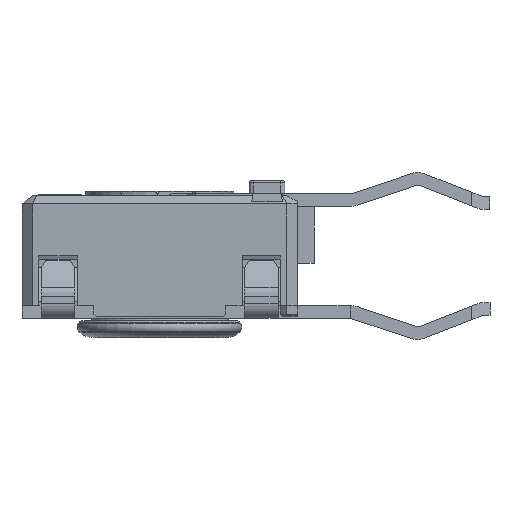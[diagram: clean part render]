
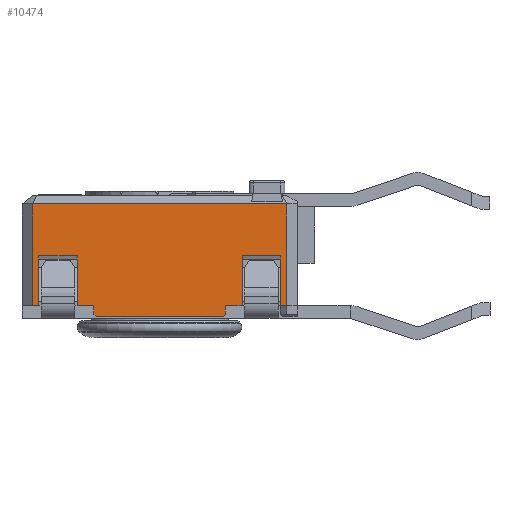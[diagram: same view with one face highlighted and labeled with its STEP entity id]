
A CAD part, left-side view. The second image highlights one B-rep face of the part: STEP entity #10474.
In plain terms, the highlighted planar face has unit normal (-1, 0, 0).
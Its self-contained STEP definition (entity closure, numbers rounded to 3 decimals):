
#476=PLANE('',#11250);
#1004=FACE_OUTER_BOUND('',#1568,.T.);
#1568=EDGE_LOOP('',(#9272,#9273,#9274,#9275,#9276,#9277,#9278,#9279,#9280,
#9281,#9282,#9283,#9284,#9285,#9286,#9287,#9288,#9289));
#2332=LINE('',#16055,#3528);
#2338=LINE('',#16068,#3534);
#2344=LINE('',#16079,#3540);
#2350=LINE('',#16090,#3546);
#2355=LINE('',#16100,#3551);
#2358=LINE('',#16106,#3554);
#2363=LINE('',#16115,#3559);
#2379=LINE('',#16145,#3575);
#2405=LINE('',#16205,#3601);
#2409=LINE('',#16210,#3605);
#2434=LINE('',#16250,#3630);
#2436=LINE('',#16255,#3632);
#2445=LINE('',#16273,#3641);
#2446=LINE('',#16275,#3642);
#2652=LINE('',#16781,#3848);
#2665=LINE('',#16805,#3861);
#2666=LINE('',#16807,#3862);
#2667=LINE('',#16809,#3863);
#3528=VECTOR('',#12931,10.);
#3534=VECTOR('',#12939,10.);
#3540=VECTOR('',#12945,10.);
#3546=VECTOR('',#12953,10.);
#3551=VECTOR('',#12960,10.);
#3554=VECTOR('',#12965,10.);
#3559=VECTOR('',#12972,10.);
#3575=VECTOR('',#12996,10.);
#3601=VECTOR('',#13050,10.);
#3605=VECTOR('',#13056,10.);
#3630=VECTOR('',#13091,10.);
#3632=VECTOR('',#13095,10.);
#3641=VECTOR('',#13116,10.);
#3642=VECTOR('',#13119,10.);
#3848=VECTOR('',#13593,10.);
#3861=VECTOR('',#13614,10.);
#3862=VECTOR('',#13617,10.);
#3863=VECTOR('',#13620,10.);
#4907=VERTEX_POINT('',#16052);
#4908=VERTEX_POINT('',#16054);
#4912=VERTEX_POINT('',#16064);
#4914=VERTEX_POINT('',#16067);
#4919=VERTEX_POINT('',#16077);
#4922=VERTEX_POINT('',#16087);
#4926=VERTEX_POINT('',#16097);
#4929=VERTEX_POINT('',#16104);
#4932=VERTEX_POINT('',#16113);
#4940=VERTEX_POINT('',#16132);
#4942=VERTEX_POINT('',#16144);
#4959=VERTEX_POINT('',#16197);
#4960=VERTEX_POINT('',#16201);
#4962=VERTEX_POINT('',#16204);
#4973=VERTEX_POINT('',#16252);
#5121=VERTEX_POINT('',#16778);
#5122=VERTEX_POINT('',#16780);
#5129=VERTEX_POINT('',#16803);
#6118=EDGE_CURVE('',#4908,#4907,#2332,.T.);
#6124=EDGE_CURVE('',#4914,#4912,#2338,.T.);
#6130=EDGE_CURVE('',#4907,#4919,#2344,.T.);
#6136=EDGE_CURVE('',#4912,#4922,#2350,.T.);
#6141=EDGE_CURVE('',#4922,#4926,#2355,.T.);
#6144=EDGE_CURVE('',#4926,#4929,#2358,.T.);
#6149=EDGE_CURVE('',#4929,#4932,#2363,.T.);
#6165=EDGE_CURVE('',#4942,#4908,#2379,.T.);
#6197=EDGE_CURVE('',#4962,#4960,#2405,.T.);
#6201=EDGE_CURVE('',#4960,#4942,#2409,.T.);
#6226=EDGE_CURVE('',#4962,#4959,#2434,.T.);
#6228=EDGE_CURVE('',#4919,#4973,#2436,.T.);
#6237=EDGE_CURVE('',#4932,#4940,#2445,.T.);
#6238=EDGE_CURVE('',#4959,#4940,#2446,.T.);
#6486=EDGE_CURVE('',#5121,#5122,#2652,.T.);
#6499=EDGE_CURVE('',#5129,#4973,#2665,.T.);
#6500=EDGE_CURVE('',#5129,#5122,#2666,.T.);
#6501=EDGE_CURVE('',#5121,#4914,#2667,.T.);
#9272=ORIENTED_EDGE('',*,*,#6499,.F.);
#9273=ORIENTED_EDGE('',*,*,#6500,.T.);
#9274=ORIENTED_EDGE('',*,*,#6486,.F.);
#9275=ORIENTED_EDGE('',*,*,#6501,.T.);
#9276=ORIENTED_EDGE('',*,*,#6124,.T.);
#9277=ORIENTED_EDGE('',*,*,#6136,.T.);
#9278=ORIENTED_EDGE('',*,*,#6141,.T.);
#9279=ORIENTED_EDGE('',*,*,#6144,.T.);
#9280=ORIENTED_EDGE('',*,*,#6149,.T.);
#9281=ORIENTED_EDGE('',*,*,#6237,.T.);
#9282=ORIENTED_EDGE('',*,*,#6238,.F.);
#9283=ORIENTED_EDGE('',*,*,#6226,.F.);
#9284=ORIENTED_EDGE('',*,*,#6197,.T.);
#9285=ORIENTED_EDGE('',*,*,#6201,.T.);
#9286=ORIENTED_EDGE('',*,*,#6165,.T.);
#9287=ORIENTED_EDGE('',*,*,#6118,.T.);
#9288=ORIENTED_EDGE('',*,*,#6130,.T.);
#9289=ORIENTED_EDGE('',*,*,#6228,.T.);
#10474=ADVANCED_FACE('',(#1004),#476,.T.);
#11250=AXIS2_PLACEMENT_3D('',#16990,#13822,#13823);
#12931=DIRECTION('',(0.,0.,-1.));
#12939=DIRECTION('',(0.,-1.,0.));
#12945=DIRECTION('',(0.,-1.,0.));
#12953=DIRECTION('',(0.,0.,1.));
#12960=DIRECTION('',(0.,-1.,0.));
#12965=DIRECTION('',(0.,0.,-1.));
#12972=DIRECTION('',(0.,-1.,0.));
#12996=DIRECTION('',(0.,-1.,0.));
#13050=DIRECTION('',(0.,-1.,0.));
#13056=DIRECTION('',(0.,0.,1.));
#13091=DIRECTION('',(0.,0.,1.));
#13095=DIRECTION('',(0.,0.,-1.));
#13116=DIRECTION('',(0.,0.,1.));
#13119=DIRECTION('',(0.,-1.,0.));
#13593=DIRECTION('',(0.,0.707,-0.707));
#13614=DIRECTION('',(0.,0.707,0.707));
#13617=DIRECTION('',(0.,-1.,0.));
#13620=DIRECTION('',(0.,0.,1.));
#13822=DIRECTION('center_axis',(-1.,0.,0.));
#13823=DIRECTION('ref_axis',(0.,0.,1.));
#16052=CARTESIAN_POINT('',(-14.26,-9.782,0.25));
#16054=CARTESIAN_POINT('',(-14.26,-9.782,1.425));
#16055=CARTESIAN_POINT('',(-14.26,-9.782,0.387));
#16064=CARTESIAN_POINT('',(-14.26,-13.682,0.25));
#16067=CARTESIAN_POINT('',(-14.26,-13.282,0.25));
#16068=CARTESIAN_POINT('',(-14.26,-13.244,0.25));
#16077=CARTESIAN_POINT('',(-14.26,-10.182,0.25));
#16079=CARTESIAN_POINT('',(-14.26,-13.244,0.25));
#16087=CARTESIAN_POINT('',(-14.26,-13.682,1.425));
#16090=CARTESIAN_POINT('',(-14.26,-13.682,0.387));
#16097=CARTESIAN_POINT('',(-14.26,-14.582,1.425));
#16100=CARTESIAN_POINT('',(-14.26,-14.657,1.425));
#16104=CARTESIAN_POINT('',(-14.26,-14.582,0.25));
#16106=CARTESIAN_POINT('',(-14.26,-14.582,0.387));
#16113=CARTESIAN_POINT('',(-14.26,-14.732,0.25));
#16115=CARTESIAN_POINT('',(-14.26,-13.244,0.25));
#16132=CARTESIAN_POINT('',(-14.26,-14.732,2.655));
#16144=CARTESIAN_POINT('',(-14.26,-8.882,1.425));
#16145=CARTESIAN_POINT('',(-14.26,-11.807,1.425));
#16197=CARTESIAN_POINT('',(-14.26,-8.732,2.655));
#16201=CARTESIAN_POINT('',(-14.26,-8.882,0.25));
#16204=CARTESIAN_POINT('',(-14.26,-8.732,0.25));
#16205=CARTESIAN_POINT('',(-14.26,-13.244,0.25));
#16210=CARTESIAN_POINT('',(-14.26,-8.882,0.387));
#16250=CARTESIAN_POINT('',(-14.26,-8.732,0.));
#16252=CARTESIAN_POINT('',(-14.26,-10.182,0.05));
#16255=CARTESIAN_POINT('',(-14.26,-10.182,0.));
#16273=CARTESIAN_POINT('',(-14.26,-14.732,0.));
#16275=CARTESIAN_POINT('',(-14.26,-13.232,2.655));
#16778=CARTESIAN_POINT('',(-14.26,-13.282,0.05));
#16780=CARTESIAN_POINT('',(-14.26,-13.232,0.));
#16781=CARTESIAN_POINT('',(-14.26,-13.619,0.388));
#16803=CARTESIAN_POINT('',(-14.26,-10.232,0.));
#16805=CARTESIAN_POINT('',(-14.26,-11.344,-1.113));
#16807=CARTESIAN_POINT('',(-14.26,-8.732,0.));
#16809=CARTESIAN_POINT('',(-14.26,-13.282,0.));
#16990=CARTESIAN_POINT('Origin',(-14.26,-14.732,0.));
